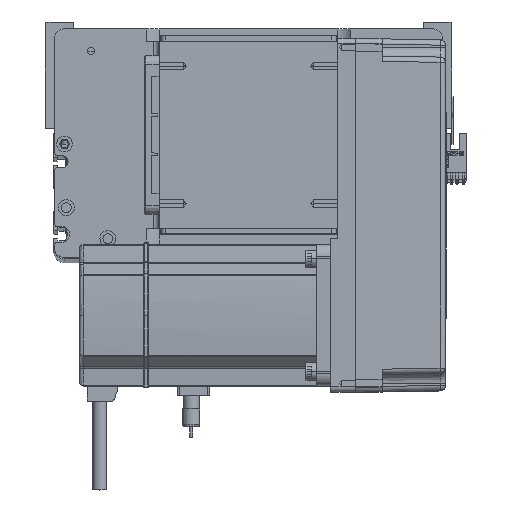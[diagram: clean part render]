
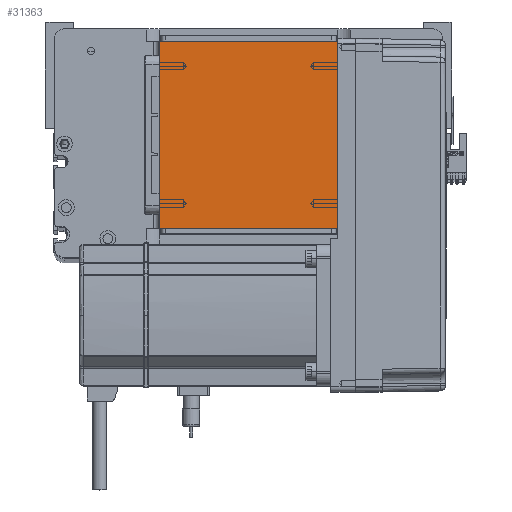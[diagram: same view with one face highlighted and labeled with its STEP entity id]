
A CAD part, top view. The second image highlights one B-rep face of the part: STEP entity #31363.
In plain terms, the highlighted planar face has unit normal (0, 0, 1).
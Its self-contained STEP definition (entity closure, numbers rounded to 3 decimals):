
#1026 = CARTESIAN_POINT ( 'NONE',  ( -50.5, 122., 115. ) ) ;
#1591 = ORIENTED_EDGE ( 'NONE', *, *, #46647, .T. ) ;
#2130 = VECTOR ( 'NONE', #19544, 1000. ) ;
#3642 = VECTOR ( 'NONE', #14581, 1000. ) ;
#4422 = ORIENTED_EDGE ( 'NONE', *, *, #52829, .T. ) ;
#6760 = LINE ( 'NONE', #43061, #7346 ) ;
#7346 = VECTOR ( 'NONE', #18308, 1000. ) ;
#8264 = CARTESIAN_POINT ( 'NONE',  ( 50.5, 16., 115. ) ) ;
#11391 = CARTESIAN_POINT ( 'NONE',  ( -50.5, 16., 115. ) ) ;
#12398 = LINE ( 'NONE', #27709, #2130 ) ;
#14298 = VERTEX_POINT ( 'NONE', #8264 ) ;
#14581 = DIRECTION ( 'NONE',  ( 0., -1., 0. ) ) ;
#16463 = FACE_OUTER_BOUND ( 'NONE', #49948, .T. ) ;
#18308 = DIRECTION ( 'NONE',  ( 1., 0., 0. ) ) ;
#19544 = DIRECTION ( 'NONE',  ( 0., 1., 0. ) ) ;
#19964 = ORIENTED_EDGE ( 'NONE', *, *, #27439, .T. ) ;
#20401 = PLANE ( 'NONE',  #24294 ) ;
#20785 = VERTEX_POINT ( 'NONE', #30079 ) ;
#21113 = CARTESIAN_POINT ( 'NONE',  ( 0., 0., 115. ) ) ;
#21642 = VERTEX_POINT ( 'NONE', #48329 ) ;
#24294 = AXIS2_PLACEMENT_3D ( 'NONE', #21113, #45148, #24851 ) ;
#24851 = DIRECTION ( 'NONE',  ( 1., 0., 0. ) ) ;
#27439 = EDGE_CURVE ( 'NONE', #30005, #14298, #6760, .T. ) ;
#27709 = CARTESIAN_POINT ( 'NONE',  ( 50.5, 122., 115. ) ) ;
#27888 = LINE ( 'NONE', #34925, #3642 ) ;
#29114 = EDGE_CURVE ( 'NONE', #14298, #20785, #12398, .T. ) ;
#30005 = VERTEX_POINT ( 'NONE', #11391 ) ;
#30079 = CARTESIAN_POINT ( 'NONE',  ( 50.5, 122., 115. ) ) ;
#31363 = ADVANCED_FACE ( 'NONE', ( #16463 ), #20401, .T. ) ;
#33985 = DIRECTION ( 'NONE',  ( -1., 0., 0. ) ) ;
#34925 = CARTESIAN_POINT ( 'NONE',  ( -50.5, 122., 115. ) ) ;
#43061 = CARTESIAN_POINT ( 'NONE',  ( -50.5, 16., 115. ) ) ;
#45148 = DIRECTION ( 'NONE',  ( 0., 0., 1. ) ) ;
#45352 = ORIENTED_EDGE ( 'NONE', *, *, #29114, .T. ) ;
#46451 = LINE ( 'NONE', #1026, #47058 ) ;
#46647 = EDGE_CURVE ( 'NONE', #21642, #30005, #27888, .T. ) ;
#47058 = VECTOR ( 'NONE', #33985, 1000. ) ;
#48329 = CARTESIAN_POINT ( 'NONE',  ( -50.5, 122., 115. ) ) ;
#49948 = EDGE_LOOP ( 'NONE', ( #1591, #19964, #45352, #4422 ) ) ;
#52829 = EDGE_CURVE ( 'NONE', #20785, #21642, #46451, .T. ) ;
